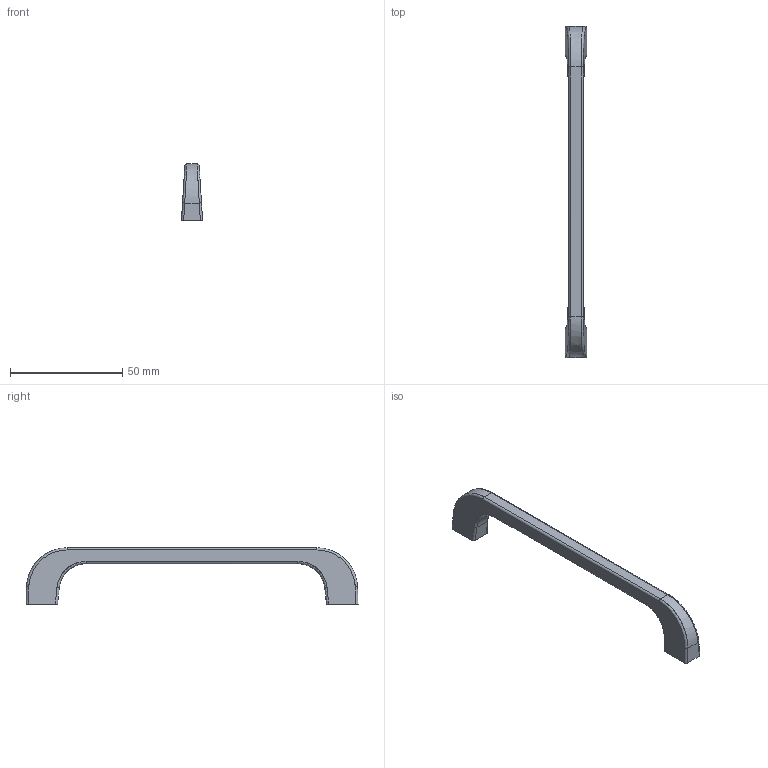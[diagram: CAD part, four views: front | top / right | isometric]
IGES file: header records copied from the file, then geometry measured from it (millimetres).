
Start section: C
Global section: file name: 8310-148 Final.igs; native system: By Siemens PLM Incorporated; preprocessor: XPlus GENERIC/IGES 16.0.42; author: Author; organization: Title; date: 20210505.112236; units: millimetre
Bounding box: 9.37 x 147.88 x 25.08 mm (x, y, z)
Surface area: 5803 mm2 (no closed solid volume)
Topology: 0 solids, 0 shells, 39 faces, 182 edges, 182 vertices
Faces by surface type: bspline 39
